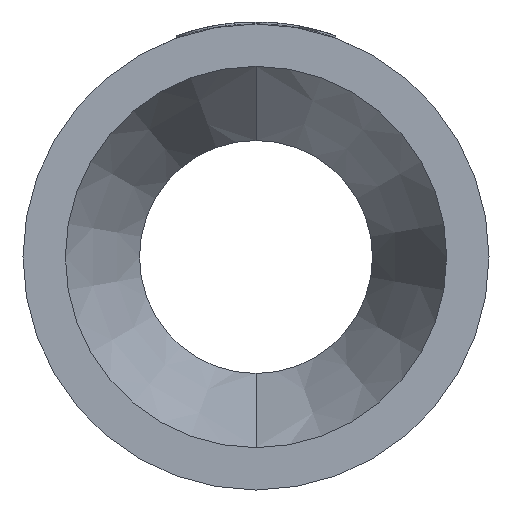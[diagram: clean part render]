
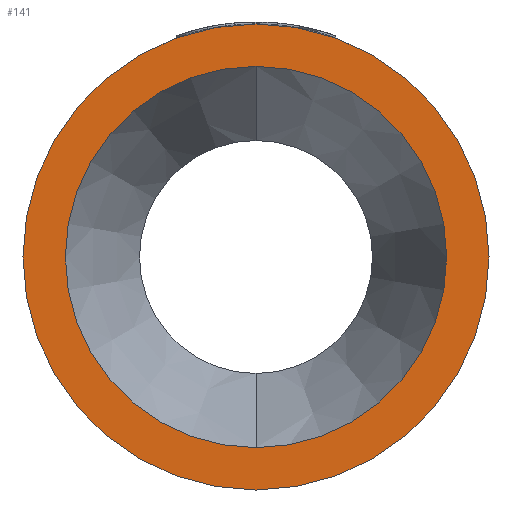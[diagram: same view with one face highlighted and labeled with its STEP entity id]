
A CAD part, left-side view. The second image highlights one B-rep face of the part: STEP entity #141.
In plain terms, the highlighted planar face has unit normal (-1, 0, 0).
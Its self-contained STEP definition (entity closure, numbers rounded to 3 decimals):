
#141 = ADVANCED_FACE ( 'NONE', ( #3006, #2870 ), #2138, .F. ) ;
#255 = AXIS2_PLACEMENT_3D ( 'NONE', #1111, #1100, #1094 ) ;
#304 = AXIS2_PLACEMENT_3D ( 'NONE', #1943, #1938, #1935 ) ;
#367 = AXIS2_PLACEMENT_3D ( 'NONE', #2938, #2930, #2911 ) ;
#375 = ORIENTED_EDGE ( 'NONE', *, *, #1476, .F. ) ;
#423 = AXIS2_PLACEMENT_3D ( 'NONE', #2977, #2965, #2957 ) ;
#722 = EDGE_LOOP ( 'NONE', ( #3334, #375 ) ) ;
#969 = VERTEX_POINT ( 'NONE', #2766 ) ;
#994 = CARTESIAN_POINT ( 'NONE',  ( 0., 0., 55. ) ) ;
#1094 = DIRECTION ( 'NONE',  ( 0., 0., 1. ) ) ;
#1100 = DIRECTION ( 'NONE',  ( -1., 0., 0. ) ) ;
#1111 = CARTESIAN_POINT ( 'NONE',  ( 0., 0., 0. ) ) ;
#1197 = AXIS2_PLACEMENT_3D ( 'NONE', #2090, #2087, #2084 ) ;
#1397 = CARTESIAN_POINT ( 'NONE',  ( 0., 0., -55. ) ) ;
#1417 = CARTESIAN_POINT ( 'NONE',  ( 0., 0., 45. ) ) ;
#1455 = EDGE_CURVE ( 'NONE', #3363, #969, #2678, .T. ) ;
#1476 = EDGE_CURVE ( 'NONE', #969, #3363, #2738, .T. ) ;
#1597 = EDGE_CURVE ( 'NONE', #2905, #3005, #2582, .T. ) ;
#1677 = ORIENTED_EDGE ( 'NONE', *, *, #2184, .T. ) ;
#1935 = DIRECTION ( 'NONE',  ( 0., 0., 1. ) ) ;
#1938 = DIRECTION ( 'NONE',  ( -1., 0., 0. ) ) ;
#1943 = CARTESIAN_POINT ( 'NONE',  ( 0., 0., 0. ) ) ;
#2084 = DIRECTION ( 'NONE',  ( 0., 0., -1. ) ) ;
#2087 = DIRECTION ( 'NONE',  ( 1., 0., 0. ) ) ;
#2090 = CARTESIAN_POINT ( 'NONE',  ( 0., 45., 0. ) ) ;
#2138 = PLANE ( 'NONE',  #1197 ) ;
#2184 = EDGE_CURVE ( 'NONE', #3005, #2905, #2448, .T. ) ;
#2448 = CIRCLE ( 'NONE', #255, 55. ) ;
#2582 = CIRCLE ( 'NONE', #304, 55. ) ;
#2678 = CIRCLE ( 'NONE', #423, 45. ) ;
#2738 = CIRCLE ( 'NONE', #367, 45. ) ;
#2766 = CARTESIAN_POINT ( 'NONE',  ( 0., 0., -45. ) ) ;
#2864 = EDGE_LOOP ( 'NONE', ( #1677, #3304 ) ) ;
#2870 = FACE_OUTER_BOUND ( 'NONE', #2864, .T. ) ;
#2905 = VERTEX_POINT ( 'NONE', #1397 ) ;
#2911 = DIRECTION ( 'NONE',  ( 0., 0., 1. ) ) ;
#2930 = DIRECTION ( 'NONE',  ( -1., 0., 0. ) ) ;
#2938 = CARTESIAN_POINT ( 'NONE',  ( 0., 0., 0. ) ) ;
#2957 = DIRECTION ( 'NONE',  ( 0., 0., 1. ) ) ;
#2965 = DIRECTION ( 'NONE',  ( -1., 0., 0. ) ) ;
#2977 = CARTESIAN_POINT ( 'NONE',  ( 0., 0., 0. ) ) ;
#3005 = VERTEX_POINT ( 'NONE', #994 ) ;
#3006 = FACE_BOUND ( 'NONE', #722, .T. ) ;
#3304 = ORIENTED_EDGE ( 'NONE', *, *, #1597, .T. ) ;
#3334 = ORIENTED_EDGE ( 'NONE', *, *, #1455, .F. ) ;
#3363 = VERTEX_POINT ( 'NONE', #1417 ) ;
